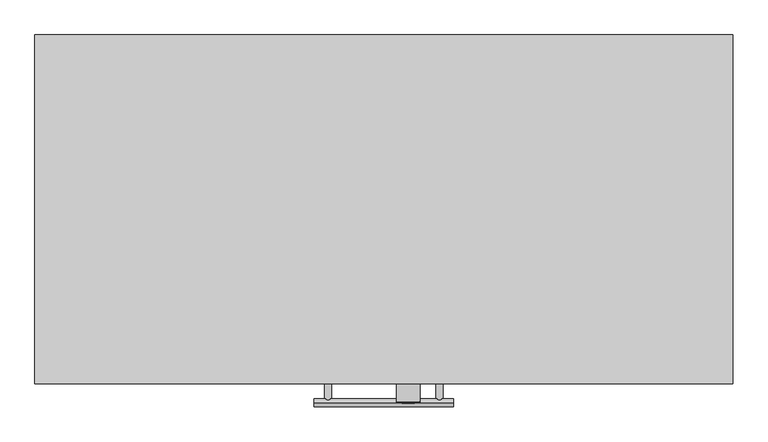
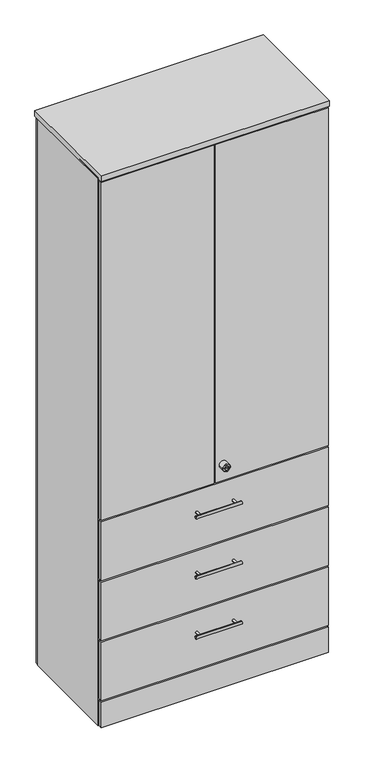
"""IFC4 building model written with IfcOpenShell, lengths in millimetres: furniture geometry, Furniture_Storage_Spacestor_SignatureStoragewall : Drawers & Doors Module."""

from ifc_helpers import new_model, si_unit, point, frame, frame_2d, origin, origin_with_axes, place, context, project, spatial, polyline, circle_curve, ellipse_curve, trimmed, segment, composite_curve, outline, extrude, source, transform, mapped, element, save
from ifc_brep_helpers import plane_surface, cylinder_surface, revolved_surface, advanced_brep


def furniture_6ea01ff0(model_context):
    return source(origin(), model_context, "Body", "SolidModel", [
        extrude(outline(polyline([(996.5, 459.0), (3.5, 459.0), (3.5, 477.0), (996.5, 477.0), (996.5, 459.0)])), origin_with_axes(), (0.0, 0.0, 1.0), 2518.0),
        extrude(outline(polyline([(996.5, -18.0), (3.5, -18.0), (3.5, 0.0), (996.5, 0.0), (996.5, -18.0)])), origin_with_axes(), (0.0, 0.0, 1.0), 118.0),
        extrude(outline(polyline([(1000.0, -20.5), (0.0, -20.5), (0.0, 479.5), (1000.0, 479.5), (1000.0, -20.5)])), frame((0.0, 0.0, 2525.0), z_axis=(0.0, 0.0, 1.0), x_axis=(1.0, 0.0, 0.0)), (0.0, 0.0, 1.0), 25.5),
        extrude(outline(polyline([(1000.0, 0.0), (989.0, 0.0), (989.0, 459.0), (1000.0, 459.0), (1000.0, 0.0)])), origin_with_axes(), (0.0, 0.0, 1.0), 2532.5),
        extrude(outline(polyline([(11.0, 0.0), (0.0, 0.0), (0.0, 459.0), (11.0, 459.0), (11.0, 0.0)])), origin_with_axes(), (0.0, 0.0, 1.0), 2532.5),
        extrude(outline(polyline([(989.0, 0.0), (11.0, 0.0), (11.0, 459.0), (989.0, 459.0), (989.0, 0.0)])), frame((0.0, 0.0, 110.5), z_axis=(0.0, 0.0, 1.0), x_axis=(1.0, 0.0, 0.0)), (0.0, 0.0, 1.0), 22.0),
        extrude(outline(polyline([(989.0, 0.0), (11.0, 0.0), (11.0, 459.0), (989.0, 459.0), (989.0, 0.0)])), frame((0.0, 0.0, 2510.0), z_axis=(0.0, 0.0, 1.0), x_axis=(1.0, 0.0, 0.0)), (0.0, 0.0, 1.0), 22.0),
        extrude(outline(polyline([(989.0, 0.0), (11.0, 0.0), (11.0, 459.0), (989.0, 459.0), (989.0, 0.0)])), frame((0.0, 0.0, 942.5), z_axis=(0.0, 0.0, 1.0), x_axis=(1.0, 0.0, 0.0)), (0.0, 0.0, 1.0), 22.0),
        extrude(outline(composite_curve([segment(trimmed(circle_curve(frame_2d((-47.0, 295.3333333)), 6.0), [point((-47.0, 301.3333333))], [point((-47.0, 289.3333333))], False, "CARTESIAN"), True, "CONTINUOUS"), segment(trimmed(circle_curve(frame_2d((-47.0, 295.3333333)), 6.0), [point((-47.0, 289.3333333))], [point((-47.0, 301.3333333))], False, "CARTESIAN"), True, "CONTINUOUS")], self_intersect=False)), frame((400.0, 0.0, 0.0), z_axis=(1.0, 0.0, 0.0), x_axis=(0.0, 1.0, 0.0)), (0.0, 0.0, 1.0), 200.0),
        extrude(outline(composite_curve([segment(trimmed(circle_curve(frame_2d((295.3333333, 580.0)), 5.0), [point((295.3333333, 585.0))], [point((295.3333333, 575.0))], False, "CARTESIAN"), True, "CONTINUOUS"), segment(trimmed(circle_curve(frame_2d((295.3333333, 580.0)), 5.0), [point((295.3333333, 575.0))], [point((295.3333333, 585.0))], False, "CARTESIAN"), True, "CONTINUOUS")], self_intersect=False)), frame((0.0, -47.0, 0.0), z_axis=(0.0, 1.0, 0.0), x_axis=(0.0, 0.0, 1.0)), (0.0, 0.0, 1.0), 29.0),
        extrude(outline(composite_curve([segment(trimmed(circle_curve(frame_2d((295.3333333, 420.0)), 5.0), [point((295.3333333, 415.0))], [point((295.3333333, 425.0))], False, "CARTESIAN"), True, "CONTINUOUS"), segment(trimmed(circle_curve(frame_2d((295.3333333, 420.0)), 5.0), [point((295.3333333, 425.0))], [point((295.3333333, 415.0))], False, "CARTESIAN"), True, "CONTINUOUS")], self_intersect=False)), frame((0.0, -47.0, 0.0), z_axis=(0.0, 1.0, 0.0), x_axis=(0.0, 0.0, 1.0)), (0.0, 0.0, 1.0), 29.0),
        extrude(outline(composite_curve([segment(trimmed(circle_curve(frame_2d((-47.0, 572.6666667)), 6.0), [point((-47.0, 578.6666667))], [point((-47.0, 566.6666667))], False, "CARTESIAN"), True, "CONTINUOUS"), segment(trimmed(circle_curve(frame_2d((-47.0, 572.6666667)), 6.0), [point((-47.0, 566.6666667))], [point((-47.0, 578.6666667))], False, "CARTESIAN"), True, "CONTINUOUS")], self_intersect=False)), frame((400.0, 0.0, 0.0), z_axis=(1.0, 0.0, 0.0), x_axis=(0.0, 1.0, 0.0)), (0.0, 0.0, 1.0), 200.0),
        extrude(outline(composite_curve([segment(trimmed(circle_curve(frame_2d((572.6666667, 580.0)), 5.0), [point((572.6666667, 585.0))], [point((572.6666667, 575.0))], False, "CARTESIAN"), True, "CONTINUOUS"), segment(trimmed(circle_curve(frame_2d((572.6666667, 580.0)), 5.0), [point((572.6666667, 575.0))], [point((572.6666667, 585.0))], False, "CARTESIAN"), True, "CONTINUOUS")], self_intersect=False)), frame((0.0, -47.0, 0.0), z_axis=(0.0, 1.0, 0.0), x_axis=(0.0, 0.0, 1.0)), (0.0, 0.0, 1.0), 29.0),
        extrude(outline(composite_curve([segment(trimmed(circle_curve(frame_2d((572.6666667, 420.0)), 5.0), [point((572.6666667, 415.0))], [point((572.6666667, 425.0))], False, "CARTESIAN"), True, "CONTINUOUS"), segment(trimmed(circle_curve(frame_2d((572.6666667, 420.0)), 5.0), [point((572.6666667, 425.0))], [point((572.6666667, 415.0))], False, "CARTESIAN"), True, "CONTINUOUS")], self_intersect=False)), frame((0.0, -47.0, 0.0), z_axis=(0.0, 1.0, 0.0), x_axis=(0.0, 0.0, 1.0)), (0.0, 0.0, 1.0), 29.0),
        extrude(outline(composite_curve([segment(trimmed(circle_curve(frame_2d((-47.0, 850.0)), 6.0), [point((-47.0, 856.0))], [point((-47.0, 844.0))], False, "CARTESIAN"), True, "CONTINUOUS"), segment(trimmed(circle_curve(frame_2d((-47.0, 850.0)), 6.0), [point((-47.0, 844.0))], [point((-47.0, 856.0))], False, "CARTESIAN"), True, "CONTINUOUS")], self_intersect=False)), frame((400.0, 0.0, 0.0), z_axis=(1.0, 0.0, 0.0), x_axis=(0.0, 1.0, 0.0)), (0.0, 0.0, 1.0), 200.0),
        extrude(outline(composite_curve([segment(trimmed(circle_curve(frame_2d((850.0, 580.0)), 5.0), [point((850.0, 585.0))], [point((850.0, 575.0))], False, "CARTESIAN"), True, "CONTINUOUS"), segment(trimmed(circle_curve(frame_2d((850.0, 580.0)), 5.0), [point((850.0, 575.0))], [point((850.0, 585.0))], False, "CARTESIAN"), True, "CONTINUOUS")], self_intersect=False)), frame((0.0, -47.0, 0.0), z_axis=(0.0, 1.0, 0.0), x_axis=(0.0, 0.0, 1.0)), (0.0, 0.0, 1.0), 29.0),
        extrude(outline(composite_curve([segment(trimmed(circle_curve(frame_2d((850.0, 420.0)), 5.0), [point((850.0, 415.0))], [point((850.0, 425.0))], False, "CARTESIAN"), True, "CONTINUOUS"), segment(trimmed(circle_curve(frame_2d((850.0, 420.0)), 5.0), [point((850.0, 425.0))], [point((850.0, 415.0))], False, "CARTESIAN"), True, "CONTINUOUS")], self_intersect=False)), frame((0.0, -47.0, 0.0), z_axis=(0.0, 1.0, 0.0), x_axis=(0.0, 0.0, 1.0)), (0.0, 0.0, 1.0), 29.0),
        extrude(outline(polyline([(996.5, -18.0), (3.5, -18.0), (3.5, 0.0), (996.5, 0.0), (996.5, -18.0)])), frame((0.0, 0.0, 679.6666667), z_axis=(0.0, 0.0, 1.0), x_axis=(1.0, 0.0, 0.0)), (0.0, 0.0, 1.0), 270.3333333),
        extrude(outline(polyline([(996.5, -18.0), (3.5, -18.0), (3.5, 0.0), (996.5, 0.0), (996.5, -18.0)])), frame((0.0, 0.0, 402.3333333), z_axis=(0.0, 0.0, 1.0), x_axis=(1.0, 0.0, 0.0)), (0.0, 0.0, 1.0), 270.3333333),
        extrude(outline(polyline([(996.5, -18.0), (3.5, -18.0), (3.5, 0.0), (996.5, 0.0), (996.5, -18.0)])), frame((0.0, 0.0, 125.0), z_axis=(0.0, 0.0, 1.0), x_axis=(1.0, 0.0, 0.0)), (0.0, 0.0, 1.0), 270.3333333),
        extrude(outline(polyline([(3.5, -18.0), (3.5, 0.0), (496.5, 0.0), (496.5, -18.0), (3.5, -18.0)])), frame((0.0, 0.0, 957.0), z_axis=(0.0, 0.0, 1.0), x_axis=(1.0, 0.0, 0.0)), (0.0, 0.0, 1.0), 1561.0),
        extrude(outline(polyline([(996.5, -18.0), (503.5, -18.0), (503.5, 0.0), (996.5, 0.0), (996.5, -18.0)])), frame((0.0, 0.0, 957.0), z_axis=(0.0, 0.0, 1.0), x_axis=(1.0, 0.0, 0.0)), (0.0, 0.0, 1.0), 1561.0),
        advanced_brep(
        [(552.0, -45.3116344, 1032.0), (518.0, -45.3116344, 1032.0), (518.0, -18.0, 1032.0), (552.0, -18.0, 1032.0), (535.0, -18.0, 1032.0), (543.9747319, -46.3150077, 1032.0), (526.0252681, -46.3150077, 1032.0), (519.0033734, -46.3150077, 1032.0), (550.9966266, -46.3150077, 1032.0), (543.9747319, -47.4703043, 1032.0), (526.0252681, -47.4703043, 1032.0), (539.8245152, -47.4703043, 1032.0), (539.8245152, -47.4703043, 1030.6366562), (530.1754848, -47.4703043, 1030.6366562), (530.1754848, -47.4703043, 1032.0), (530.1754848, -47.4703043, 1033.3633438), (539.8245152, -47.4703043, 1033.3633438), (530.1754848, -27.8604291, 1030.6366562), (539.8245152, -27.8604291, 1030.6366562), (539.8245152, -27.8604291, 1033.3633438), (530.1754848, -27.8604291, 1033.3633438)],
        [
            (0, 1, circle_curve(frame((535.0, -45.3116344, 1032.0), z_axis=(0.0, 1.0, 0.0), x_axis=(-1.0, 0.0, 0.0)), 17.0)),
            (1, 2),
            (2, 3, circle_curve(frame((535.0, -18.0, 1032.0), z_axis=(0.0, -1.0, 0.0), x_axis=(-1.0, 0.0, 0.0)), 17.0)),
            (3, 0),
            (1, 0, circle_curve(frame((535.0, -45.3116344, 1032.0), z_axis=(0.0, 1.0, 0.0), x_axis=(-1.0, 0.0, 0.0)), 17.0)),
            (3, 2, circle_curve(frame((535.0, -18.0, 1032.0), z_axis=(0.0, -1.0, 0.0), x_axis=(-1.0, 0.0, 0.0)), 17.0)),
            (2, 4),
            (4, 3),
            (5, 6, circle_curve(frame((535.0, -46.3150077, 1032.0), z_axis=(0.0, 1.0, 0.0), x_axis=(-1.0, 0.0, 0.0)), 8.9747319)),
            (6, 7),
            (7, 8, circle_curve(frame((535.0, -46.3150077, 1032.0), z_axis=(0.0, -1.0, 0.0), x_axis=(-1.0, 0.0, 0.0)), 15.9966266)),
            (8, 5),
            (6, 5, circle_curve(frame((535.0, -46.3150077, 1032.0), z_axis=(0.0, 1.0, 0.0), x_axis=(-1.0, 0.0, 0.0)), 8.9747319)),
            (8, 7, circle_curve(frame((535.0, -46.3150077, 1032.0), z_axis=(0.0, -1.0, 0.0), x_axis=(-1.0, 0.0, 0.0)), 15.9966266)),
            (0, 8, circle_curve(frame((550.9966266, -45.3116344, 1032.0), z_axis=(0.0, 0.0, -1.0), x_axis=(1.0, 0.0, 0.0)), 1.0033734)),
            (7, 1, circle_curve(frame((519.0033734, -45.3116344, 1032.0), z_axis=(0.0, 0.0, -1.0), x_axis=(-1.0, 0.0, 0.0)), 1.0033734)),
            (5, 9),
            (9, 10, circle_curve(frame((535.0, -47.4703043, 1032.0), z_axis=(0.0, 1.0, 0.0), x_axis=(-1.0, 0.0, 0.0)), 8.9747319)),
            (10, 6),
            (10, 9, circle_curve(frame((535.0, -47.4703043, 1032.0), z_axis=(0.0, 1.0, 0.0), x_axis=(-1.0, 0.0, 0.0)), 8.9747319)),
            (9, 11),
            (11, 12),
            (12, 13),
            (13, 14),
            (14, 10),
            (14, 15),
            (15, 16),
            (16, 11),
            (17, 18),
            (18, 19),
            (19, 20),
            (20, 17),
            (17, 13),
            (12, 18),
            (16, 19),
            (15, 20),
        ],
        [
            cylinder_surface(frame((535.0, -2627.0581012, 1032.0), z_axis=(0.0, -1.0, 0.0), x_axis=(-1.0, 0.0, 0.0)), 17.0),
            plane_surface(frame((535.0, -18.0, 1032.0), z_axis=(0.0, 1.0, 0.0), x_axis=(-1.0, 0.0, 0.0))),
            plane_surface(frame((535.0, -46.3150077, 1032.0), z_axis=(0.0, -1.0, 0.0), x_axis=(-1.0, 0.0, 0.0))),
            revolved_surface(trimmed(ellipse_curve(frame((519.0033734, -45.3116344, 1032.0), z_axis=(0.0, 0.0, 1.0), x_axis=(-1.0, 0.0, 0.0)), 1.0033734, 1.0033734), [point((518.0, -45.3116344, 1032.0))], [point((519.0033734, -46.3150077, 1032.0))], True, "CARTESIAN"), (535.0, -2627.0581012, 1032.0), (0.0, -1.0, 0.0)),
            cylinder_surface(frame((535.0, -2627.0581012, 1032.0), z_axis=(0.0, -1.0, 0.0), x_axis=(-1.0, 0.0, 0.0)), 8.9747319),
            plane_surface(frame((535.0, -47.4703043, 1032.0), z_axis=(0.0, -1.0, 0.0), x_axis=(-1.0, 0.0, 0.0))),
            plane_surface(frame((539.4565249, -27.8604291, 1030.6366562), z_axis=(0.0, -1.0, 0.0), x_axis=(-1.0, 0.0, 0.0))),
            plane_surface(frame((530.1754848, -49.2046383, 1030.6366562), z_axis=(0.0, 0.0, 1.0), x_axis=(0.0, 1.0, 0.0))),
            plane_surface(frame((539.8245152, -49.2046383, 1030.6366562), z_axis=(-1.0, 0.0, 0.0), x_axis=(0.0, 1.0, 0.0))),
            plane_surface(frame((539.8245152, -49.2046383, 1033.3633438), z_axis=(0.0, 0.0, -1.0), x_axis=(0.0, 1.0, 0.0))),
            plane_surface(frame((530.1754848, -49.2046383, 1033.3633438), z_axis=(1.0, 0.0, 0.0), x_axis=(0.0, 1.0, 0.0))),
        ],
        [
            (0, [[1, 2, 3, 4]]),
            (0, [[-2, 5, -4, 6]]),
            (1, [[-3, 7, 8]]),
            (1, [[-6, -8, -7]]),
            (2, [[9, 10, 11, 12]]),
            (2, [[-10, 13, -12, 14]]),
            (3, [[-1, 15, -11, 16]]),
            (3, [[-5, -16, -14, -15]]),
            (4, [[-9, 17, 18, 19]]),
            (4, [[-13, -19, 20, -17]]),
            (5, [[-18, 21, 22, 23, 24, 25]]),
            (5, [[-20, -25, 26, 27, 28, -21]]),
            (6, [[29, 30, 31, 32]]),
            (7, [[-29, 33, -23, 34]]),
            (8, [[-30, -34, -22, -28, 35]]),
            (9, [[-31, -35, -27, 36]]),
            (10, [[-32, -36, -26, -24, -33]]),
        ],
    ),
    ])


if __name__ == "__main__":
    model = new_model("IFC4")
    model_context = context("Model", 3, world=origin())
    ifc_project = project(units=[si_unit("LENGTHUNIT", "METRE", prefix="MILLI")], contexts=[model_context])
    site = spatial("IfcSite", under=ifc_project)
    building = spatial("IfcBuilding", under=site)
    placement = place(None, origin())
    furniture_shape = furniture_6ea01ff0(model_context)
    element("IfcFurniture", 1, ObjectType="Furniture_Storage_Spacestor_SignatureStoragewall : Drawers & Doors Module", at=placement, inside=building, context=model_context, shape_type="MappedRepresentation", body=[
        mapped(furniture_shape, transform((0.0, 0.0, 0.0), x_axis=(1.0, 0.0, 0.0), y_axis=(0.0, 1.0, 0.0), z_axis=(0.0, 0.0, 1.0))),
    ])
    save(model, "model.ifc")
